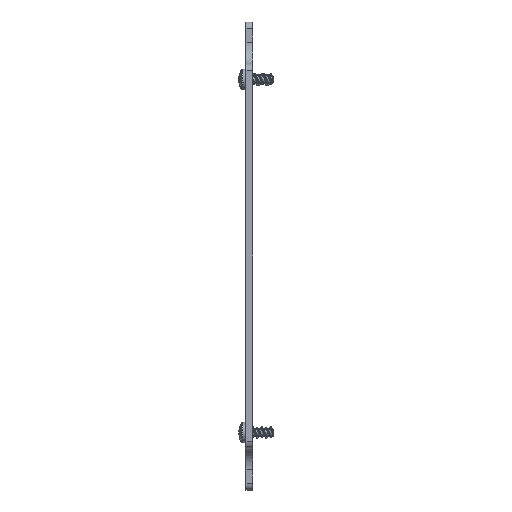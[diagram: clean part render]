
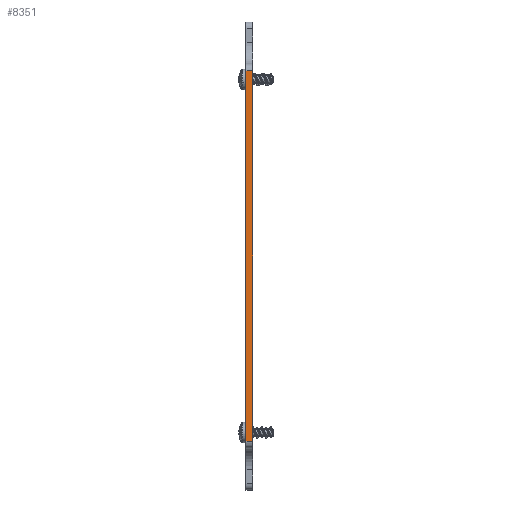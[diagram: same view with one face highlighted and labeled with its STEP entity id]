
A CAD part, left-side view. The second image highlights one B-rep face of the part: STEP entity #8351.
In plain terms, the highlighted planar face has unit normal (-1, 0, 0).
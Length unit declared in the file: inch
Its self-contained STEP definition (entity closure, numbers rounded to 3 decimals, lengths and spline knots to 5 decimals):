
#86 = FACE_OUTER_BOUND ( 'NONE', #2066, .T. ) ;
#411 = VECTOR ( 'NONE', #9251, 39.37008 ) ;
#787 = CARTESIAN_POINT ( 'NONE',  ( -2.1562, 0.0625, 1.70602 ) ) ;
#1295 = CARTESIAN_POINT ( 'NONE',  ( -2.1562, 0.0625, -1.70602 ) ) ;
#1360 = VECTOR ( 'NONE', #8243, 39.37008 ) ;
#1412 = VECTOR ( 'NONE', #1554, 39.37008 ) ;
#1554 = DIRECTION ( 'NONE',  ( 0., 1., 0. ) ) ;
#2066 = EDGE_LOOP ( 'NONE', ( #7522, #8234, #6877, #5818 ) ) ;
#2510 = LINE ( 'NONE', #8282, #6398 ) ;
#3209 = DIRECTION ( 'NONE',  ( 0., 0., -1. ) ) ;
#3426 = CARTESIAN_POINT ( 'NONE',  ( -2.1562, 0., 1.70602 ) ) ;
#3445 = VERTEX_POINT ( 'NONE', #6408 ) ;
#3451 = LINE ( 'NONE', #787, #1412 ) ;
#3700 = AXIS2_PLACEMENT_3D ( 'NONE', #6296, #7833, #3209 ) ;
#4013 = EDGE_CURVE ( 'NONE', #6866, #7511, #5470, .T. ) ;
#4657 = CARTESIAN_POINT ( 'NONE',  ( -2.1562, 0., -1.76852 ) ) ;
#4741 = LINE ( 'NONE', #4657, #411 ) ;
#4938 = CARTESIAN_POINT ( 'NONE',  ( -2.1562, 0.0625, -1.70602 ) ) ;
#5244 = EDGE_CURVE ( 'NONE', #6866, #3445, #2510, .T. ) ;
#5470 = LINE ( 'NONE', #1295, #1360 ) ;
#5658 = VERTEX_POINT ( 'NONE', #3426 ) ;
#5818 = ORIENTED_EDGE ( 'NONE', *, *, #4013, .T. ) ;
#6296 = CARTESIAN_POINT ( 'NONE',  ( -2.1562, 0.0625, -1.76852 ) ) ;
#6315 = EDGE_CURVE ( 'NONE', #7511, #5658, #4741, .T. ) ;
#6398 = VECTOR ( 'NONE', #6724, 39.37008 ) ;
#6408 = CARTESIAN_POINT ( 'NONE',  ( -2.1562, 0.0625, 1.70602 ) ) ;
#6724 = DIRECTION ( 'NONE',  ( 0., 0., 1. ) ) ;
#6866 = VERTEX_POINT ( 'NONE', #4938 ) ;
#6877 = ORIENTED_EDGE ( 'NONE', *, *, #5244, .F. ) ;
#7045 = PLANE ( 'NONE',  #3700 ) ;
#7427 = EDGE_CURVE ( 'NONE', #5658, #3445, #3451, .T. ) ;
#7511 = VERTEX_POINT ( 'NONE', #9284 ) ;
#7522 = ORIENTED_EDGE ( 'NONE', *, *, #6315, .T. ) ;
#7833 = DIRECTION ( 'NONE',  ( 1., 0., 0. ) ) ;
#8234 = ORIENTED_EDGE ( 'NONE', *, *, #7427, .T. ) ;
#8243 = DIRECTION ( 'NONE',  ( 0., -1., 0. ) ) ;
#8282 = CARTESIAN_POINT ( 'NONE',  ( -2.1562, 0.0625, -1.76852 ) ) ;
#8351 = ADVANCED_FACE ( 'NONE', ( #86 ), #7045, .F. ) ;
#9251 = DIRECTION ( 'NONE',  ( 0., 0., 1. ) ) ;
#9284 = CARTESIAN_POINT ( 'NONE',  ( -2.1562, 0., -1.70602 ) ) ;
